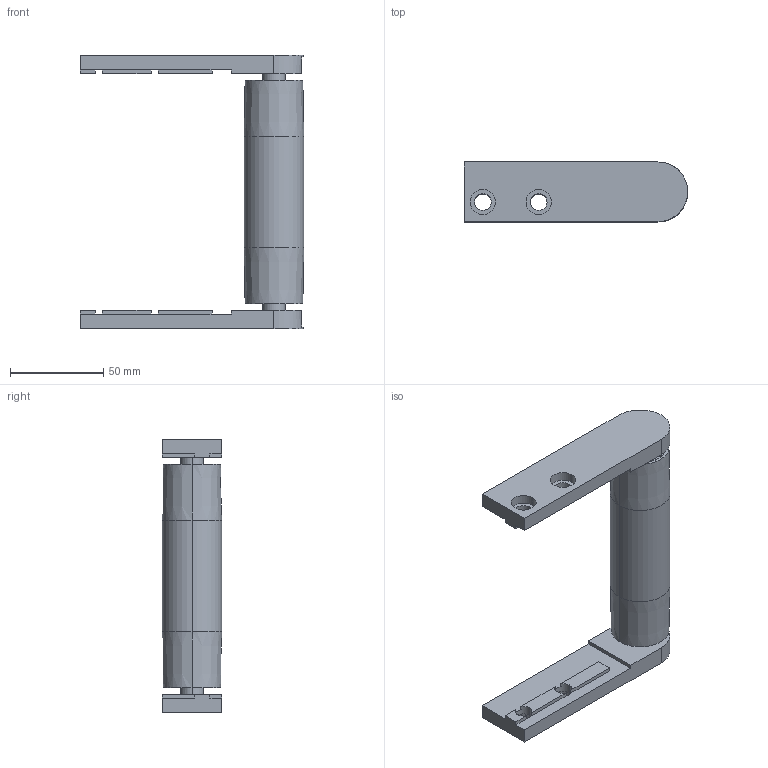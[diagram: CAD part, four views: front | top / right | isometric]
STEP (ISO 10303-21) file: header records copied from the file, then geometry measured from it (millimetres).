
FILE_DESCRIPTION (( 'STEP AP203' ), '1' );
FILE_NAME ('084.030.KI.100.STEP', '2019-07-29T09:46:17', ( '' ), ( '' ), 'SwSTEP 2.0', 'SolidWorks 2018', '' );
FILE_SCHEMA (( 'CONFIG_CONTROL_DESIGN' ));
Length unit declared in the file: millimetre
Products named in the file (6): 084.030.102_084.030.000; 084.801.016 SX; 084.030.KI.100; 084.802.036; 084.801.016 DX; 084.030.103
Assembly tree (6 placements, depth 2):
  084.030.KI.100
    084.030.102_084.030.000
    084.802.036  x2
    084.030.103
    084.801.016 DX
    084.801.016 SX
Bounding box: 120 x 32 x 147 mm (x, y, z)
Volume: 110060.9 mm3; surface area: 58584.9 mm2
Topology: 8 solids, 10 shells, 200 faces, 462 edges, 288 vertices
Faces by surface type: cylinder 86, plane 70, torus 36, cone 8
Entity records: 5438 total; most frequent: CARTESIAN_POINT 1007, DIRECTION 872, ORIENTED_EDGE 740, EDGE_CURVE 370, AXIS2_PLACEMENT_3D 347, VERTEX_POINT 234, CIRCLE 184, EDGE_LOOP 178
